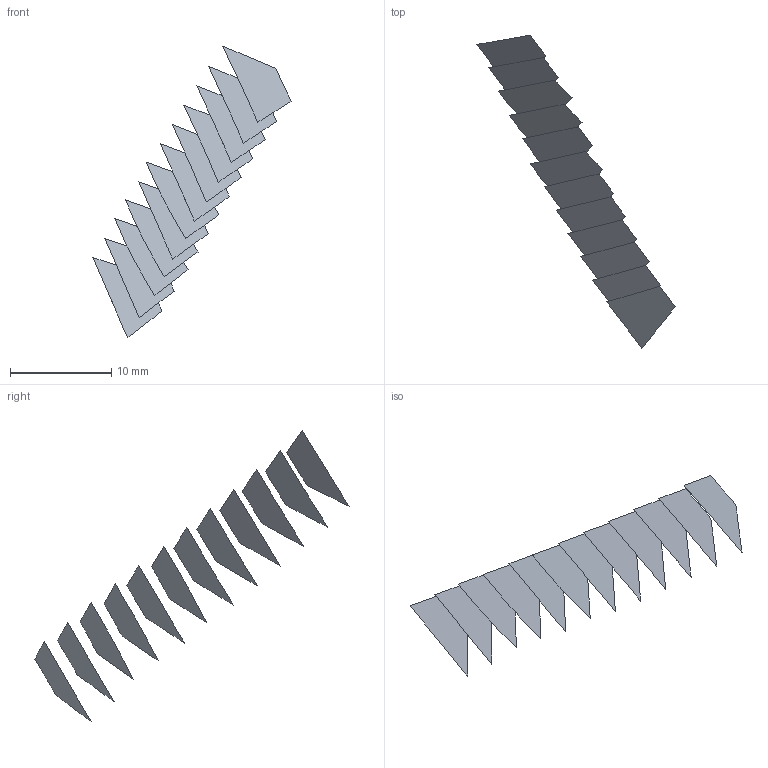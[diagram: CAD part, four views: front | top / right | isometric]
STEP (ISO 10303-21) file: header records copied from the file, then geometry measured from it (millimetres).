
FILE_DESCRIPTION(('FreeCAD Model'),'2;1');
FILE_NAME('Open CASCADE Shape Model','2022-05-22T07:50:32',('FreeCAD'),( 'FreeCAD'),'Open CASCADE STEP processor 7.5','FreeCAD','Unknown');
FILE_SCHEMA(('AUTOMOTIVE_DESIGN { 1 0 10303 214 1 1 1 1 }'));
Length unit declared in the file: millimetre
Products named in the file (13): Open CASCADE STEP translator 7.5 13; Open CASCADE STEP translator 7.5 13.1; Open CASCADE STEP translator 7.5 13.2; Open CASCADE STEP translator 7.5 13.3; Open CASCADE STEP translator 7.5 13.4; Open CASCADE STEP translator 7.5 13.5; Open CASCADE STEP translator 7.5 13.6; Open CASCADE STEP translator 7.5 13.7; Open CASCADE STEP translator 7.5 13.8; Open CASCADE STEP translator 7.5 13.9; Open CASCADE STEP translator 7.5 13.10; Open CASCADE STEP translator 7.5 13.11; Open CASCADE STEP translator 7.5 13.12
Assembly tree (12 placements, depth 2):
  Open CASCADE STEP translator 7.5 13
    Open CASCADE STEP translator 7.5 13.1
    Open CASCADE STEP translator 7.5 13.2
    Open CASCADE STEP translator 7.5 13.3
    Open CASCADE STEP translator 7.5 13.4
    Open CASCADE STEP translator 7.5 13.5
    Open CASCADE STEP translator 7.5 13.6
    Open CASCADE STEP translator 7.5 13.7
    Open CASCADE STEP translator 7.5 13.8
    Open CASCADE STEP translator 7.5 13.9
    Open CASCADE STEP translator 7.5 13.10
    Open CASCADE STEP translator 7.5 13.11
    Open CASCADE STEP translator 7.5 13.12
Bounding box: 19.61 x 31.08 x 28.88 mm (x, y, z)
Surface area: 418 mm2 (no closed solid volume)
Topology: 0 solids, 12 shells, 12 faces, 153 edges, 153 vertices
Faces by surface type: bspline 12
Entity records: 2341 total; most frequent: CARTESIAN_POINT 826, B_SPLINE_CURVE_WITH_KNOTS 306, ORIENTED_EDGE 153, EDGE_CURVE 153, VERTEX_POINT 153, SURFACE_CURVE 153, PCURVE 153, DEFINITIONAL_REPRESENTATION 153
